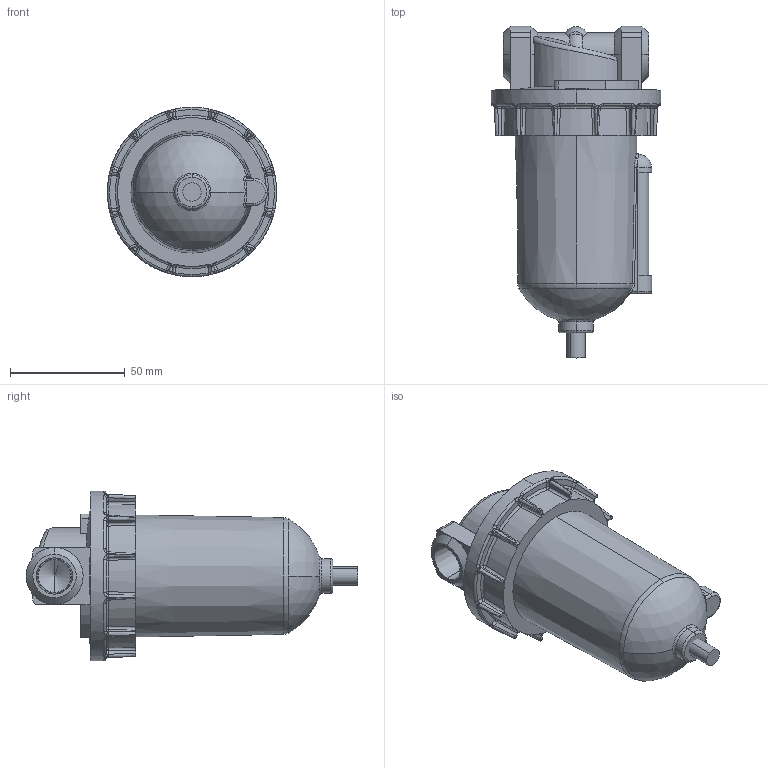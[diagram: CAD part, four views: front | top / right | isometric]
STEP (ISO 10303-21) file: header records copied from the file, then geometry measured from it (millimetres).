
FILE_DESCRIPTION (( 'STEP AP203' ), '1' );
FILE_NAME ('F602W-03#YB#.STEP', '2016-02-16T05:16:34', ( 'Toshiba' ), ( 'Toshiba' ), 'SwSTEP 2.0', 'SolidWorks 2014', '' );
FILE_SCHEMA (( 'CONFIG_CONTROL_DESIGN' ));
Length unit declared in the file: millimetre
Products named in the file (5): F602W-03#YB#; L606-W-06-5
Assembly tree (4 placements, depth 2):
  F602W-03#YB#
    (unnamed)
    L606-W-06-5
    (unnamed)
    (unnamed)
Bounding box: 74 x 144.96 x 74 mm (x, y, z)
Volume: 273095.8 mm3; surface area: 39237.8 mm2
Topology: 4 solids, 4 shells, 373 faces, 929 edges, 541 vertices
Faces by surface type: bspline 107, plane 89, cylinder 74, torus 40, sphere 33, cone 30
Entity records: 14522 total; most frequent: CARTESIAN_POINT 6209, ORIENTED_EDGE 1802, DIRECTION 1468, EDGE_CURVE 901, AXIS2_PLACEMENT_3D 631, VERTEX_POINT 541, EDGE_LOOP 378, FACE_OUTER_BOUND 373
